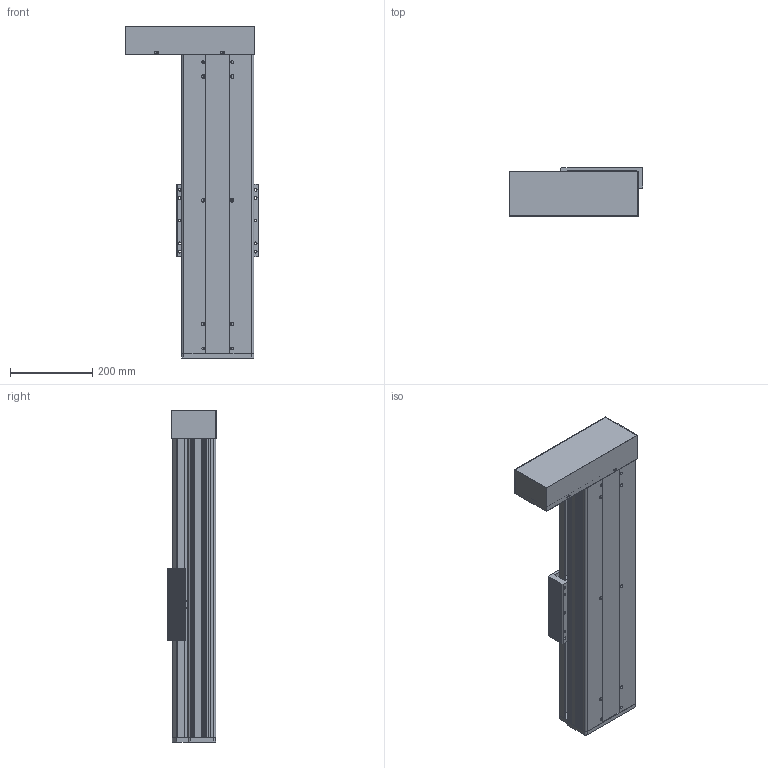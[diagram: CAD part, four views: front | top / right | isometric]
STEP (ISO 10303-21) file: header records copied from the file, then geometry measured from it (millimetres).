
FILE_DESCRIPTION (( 'STEP AP214' ), '1' );
FILE_NAME ('CF175B-C-450-FWL.STEP', '2019-12-03T03:12:41', ( '微软用户' ), ( '微软中国' ), 'SwSTEP 2.0', 'SolidWorks 2016', '' );
FILE_SCHEMA (( 'AUTOMOTIVE_DESIGN' ));
Length unit declared in the file: millimetre
Products named in the file (12): 175-2耜啣; CF-EGH20CA賑輸; CF175B-C-450-FWL; 肮祭謫欶; 175B殏俔萇儂啣; 175-2同步带从动端固定座; CF175-2賑雄啣; EGR20絳寢-450; 175B臏倰第-450; CF175B-450; CF175-2蹟譫釱; 175-2盓傅釱
Assembly tree (15 placements, depth 2):
  CF175B-C-450-FWL
    CF-EGH20CA賑輸  x4
    175-2耜啣
    175-2盓傅釱
    CF175-2蹟譫釱
    CF175B-450
    175B臏倰第-450
    EGR20絳寢-450  x2
    CF175-2賑雄啣
    175-2同步带从动端固定座
    175B殏俔萇儂啣
    肮祭謫欶
Bounding box: 324.5 x 118.3 x 805 mm (x, y, z)
Volume: 6441296.5 mm3; surface area: 1912613.1 mm2
Topology: 21 solids, 21 shells, 1306 faces, 3425 edges, 2269 vertices
Faces by surface type: plane 649, cylinder 647, cone 8, bspline 2
Entity records: 33478 total; most frequent: DIRECTION 5631, CARTESIAN_POINT 5525, ORIENTED_EDGE 5184, EDGE_CURVE 2592, AXIS2_PLACEMENT_3D 2067, VERTEX_POINT 1721, LINE 1497, VECTOR 1497
